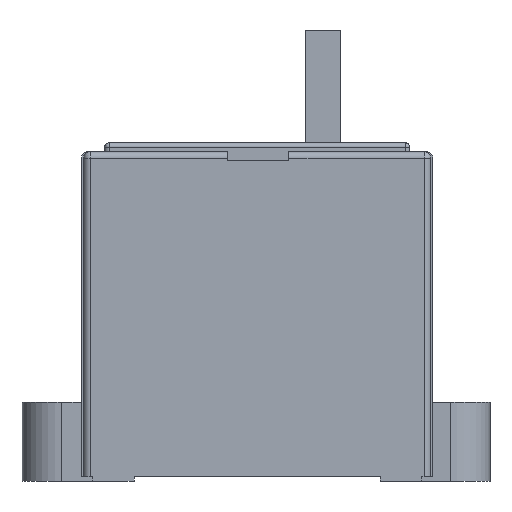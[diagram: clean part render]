
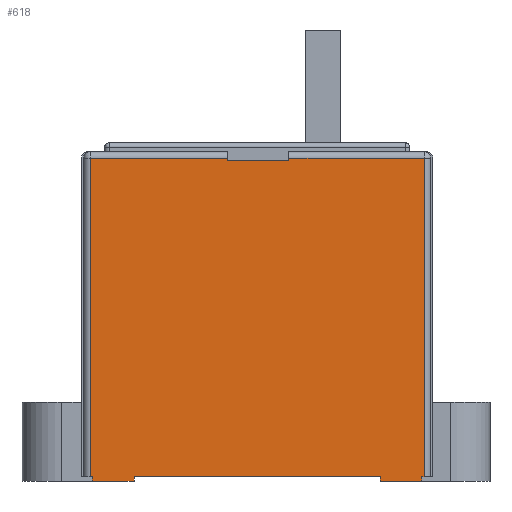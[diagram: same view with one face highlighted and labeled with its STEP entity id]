
A CAD part, left-side view. The second image highlights one B-rep face of the part: STEP entity #618.
In plain terms, the highlighted planar face has unit normal (-1, 0, 0).
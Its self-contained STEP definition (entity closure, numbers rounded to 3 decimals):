
#618=ADVANCED_FACE('',(#1230),#997,.F.);
#997=PLANE('',#7181);
#1230=FACE_OUTER_BOUND('',#1585,.T.);
#1585=EDGE_LOOP('',(#2448,#2449,#2450,#2451,#2452,#2453,#2454,#2455,#2456,
#2457,#2458,#2459,#2460,#2461,#2462,#2463));
#2448=ORIENTED_EDGE('',*,*,#4975,.F.);
#2449=ORIENTED_EDGE('',*,*,#4976,.T.);
#2450=ORIENTED_EDGE('',*,*,#4977,.T.);
#2451=ORIENTED_EDGE('',*,*,#4978,.F.);
#2452=ORIENTED_EDGE('',*,*,#4979,.T.);
#2453=ORIENTED_EDGE('',*,*,#4980,.T.);
#2454=ORIENTED_EDGE('',*,*,#4973,.T.);
#2455=ORIENTED_EDGE('',*,*,#4826,.T.);
#2456=ORIENTED_EDGE('',*,*,#4970,.F.);
#2457=ORIENTED_EDGE('',*,*,#4981,.F.);
#2458=ORIENTED_EDGE('',*,*,#4982,.T.);
#2459=ORIENTED_EDGE('',*,*,#4669,.T.);
#2460=ORIENTED_EDGE('',*,*,#4983,.F.);
#2461=ORIENTED_EDGE('',*,*,#4984,.F.);
#2462=ORIENTED_EDGE('',*,*,#4985,.T.);
#2463=ORIENTED_EDGE('',*,*,#4842,.T.);
#4023=VERTEX_POINT('',#9928);
#4024=VERTEX_POINT('',#9930);
#4172=VERTEX_POINT('',#10255);
#4173=VERTEX_POINT('',#10257);
#4184=VERTEX_POINT('',#10283);
#4187=VERTEX_POINT('',#10289);
#4267=VERTEX_POINT('',#10535);
#4269=VERTEX_POINT('',#10543);
#4270=VERTEX_POINT('',#10547);
#4271=VERTEX_POINT('',#10549);
#4272=VERTEX_POINT('',#10551);
#4273=VERTEX_POINT('',#10553);
#4274=VERTEX_POINT('',#10555);
#4275=VERTEX_POINT('',#10558);
#4276=VERTEX_POINT('',#10561);
#4277=VERTEX_POINT('',#10563);
#4669=EDGE_CURVE('',#4024,#4023,#5672,.T.);
#4826=EDGE_CURVE('',#4173,#4172,#5796,.T.);
#4842=EDGE_CURVE('',#4184,#4187,#5808,.T.);
#4970=EDGE_CURVE('',#4267,#4172,#5921,.T.);
#4973=EDGE_CURVE('',#4269,#4173,#5924,.T.);
#4975=EDGE_CURVE('',#4270,#4187,#5925,.T.);
#4976=EDGE_CURVE('',#4270,#4271,#5926,.T.);
#4977=EDGE_CURVE('',#4271,#4272,#5927,.T.);
#4978=EDGE_CURVE('',#4273,#4272,#5928,.T.);
#4979=EDGE_CURVE('',#4273,#4274,#5929,.T.);
#4980=EDGE_CURVE('',#4274,#4269,#5930,.T.);
#4981=EDGE_CURVE('',#4275,#4267,#5931,.T.);
#4982=EDGE_CURVE('',#4275,#4024,#5932,.T.);
#4983=EDGE_CURVE('',#4276,#4023,#5933,.T.);
#4984=EDGE_CURVE('',#4277,#4276,#5934,.T.);
#4985=EDGE_CURVE('',#4277,#4184,#5935,.T.);
#5672=LINE('',#9929,#6410);
#5796=LINE('',#10256,#6534);
#5808=LINE('',#10290,#6546);
#5921=LINE('',#10536,#6659);
#5924=LINE('',#10542,#6662);
#5925=LINE('',#10546,#6663);
#5926=LINE('',#10548,#6664);
#5927=LINE('',#10550,#6665);
#5928=LINE('',#10552,#6666);
#5929=LINE('',#10554,#6667);
#5930=LINE('',#10556,#6668);
#5931=LINE('',#10557,#6669);
#5932=LINE('',#10559,#6670);
#5933=LINE('',#10560,#6671);
#5934=LINE('',#10562,#6672);
#5935=LINE('',#10564,#6673);
#6410=VECTOR('',#7823,1.);
#6534=VECTOR('',#8055,1.);
#6546=VECTOR('',#8081,1.);
#6659=VECTOR('',#8300,1.);
#6662=VECTOR('',#8307,1.);
#6663=VECTOR('',#8312,1.);
#6664=VECTOR('',#8313,1.);
#6665=VECTOR('',#8314,1.);
#6666=VECTOR('',#8315,1.);
#6667=VECTOR('',#8316,1.);
#6668=VECTOR('',#8317,1.);
#6669=VECTOR('',#8318,1.);
#6670=VECTOR('',#8319,1.);
#6671=VECTOR('',#8320,1.);
#6672=VECTOR('',#8321,1.);
#6673=VECTOR('',#8322,1.);
#7181=AXIS2_PLACEMENT_3D('',#10565,#8323,#8324);
#7823=DIRECTION('',(0.,-1.,0.));
#8055=DIRECTION('',(0.,-1.,0.));
#8081=DIRECTION('',(0.,-1.,0.));
#8300=DIRECTION('',(0.,0.,1.));
#8307=DIRECTION('',(0.,0.,-1.));
#8312=DIRECTION('',(0.,0.,-1.));
#8313=DIRECTION('',(0.,1.,0.));
#8314=DIRECTION('',(0.,0.,-1.));
#8315=DIRECTION('',(0.,-1.,0.));
#8316=DIRECTION('',(0.,0.,1.));
#8317=DIRECTION('',(0.,1.,0.));
#8318=DIRECTION('',(0.,1.,0.));
#8319=DIRECTION('',(0.,0.,1.));
#8320=DIRECTION('',(0.,0.,1.));
#8321=DIRECTION('',(0.,1.,0.));
#8322=DIRECTION('',(0.,0.,1.));
#8323=DIRECTION('',(1.,0.,0.));
#8324=DIRECTION('',(0.,0.,-1.));
#9928=CARTESIAN_POINT('',(-66.,-28.,0.));
#9929=CARTESIAN_POINT('',(-66.,-37.5,0.));
#9930=CARTESIAN_POINT('',(-66.,28.,0.));
#10255=CARTESIAN_POINT('',(-66.,37.5,0.));
#10256=CARTESIAN_POINT('',(-66.,-37.5,0.));
#10257=CARTESIAN_POINT('',(-66.,38.,0.));
#10283=CARTESIAN_POINT('',(-66.,-37.5,0.));
#10289=CARTESIAN_POINT('',(-66.,-38.,0.));
#10290=CARTESIAN_POINT('',(-66.,-37.5,0.));
#10535=CARTESIAN_POINT('',(-66.,37.5,-1.));
#10536=CARTESIAN_POINT('',(-66.,37.5,-1.));
#10542=CARTESIAN_POINT('',(-66.,38.,74.));
#10543=CARTESIAN_POINT('',(-66.,38.,72.5));
#10546=CARTESIAN_POINT('',(-66.,-38.,74.));
#10547=CARTESIAN_POINT('',(-66.,-38.,72.5));
#10548=CARTESIAN_POINT('',(-66.,38.,72.5));
#10549=CARTESIAN_POINT('',(-66.,-7.25,72.5));
#10550=CARTESIAN_POINT('',(-66.,-7.25,74.));
#10551=CARTESIAN_POINT('',(-66.,-7.25,71.9));
#10552=CARTESIAN_POINT('',(-66.,37.5,71.9));
#10553=CARTESIAN_POINT('',(-66.,6.75,71.9));
#10554=CARTESIAN_POINT('',(-66.,6.75,74.));
#10555=CARTESIAN_POINT('',(-66.,6.75,72.5));
#10556=CARTESIAN_POINT('',(-66.,38.,72.5));
#10557=CARTESIAN_POINT('',(-66.,28.,-1.));
#10558=CARTESIAN_POINT('',(-66.,28.,-1.));
#10559=CARTESIAN_POINT('',(-66.,28.,-1.));
#10560=CARTESIAN_POINT('',(-66.,-28.,-1.));
#10561=CARTESIAN_POINT('',(-66.,-28.,-1.));
#10562=CARTESIAN_POINT('',(-66.,-37.5,-1.));
#10563=CARTESIAN_POINT('',(-66.,-37.5,-1.));
#10564=CARTESIAN_POINT('',(-66.,-37.5,-1.));
#10565=CARTESIAN_POINT('',(-66.,-37.5,74.));
